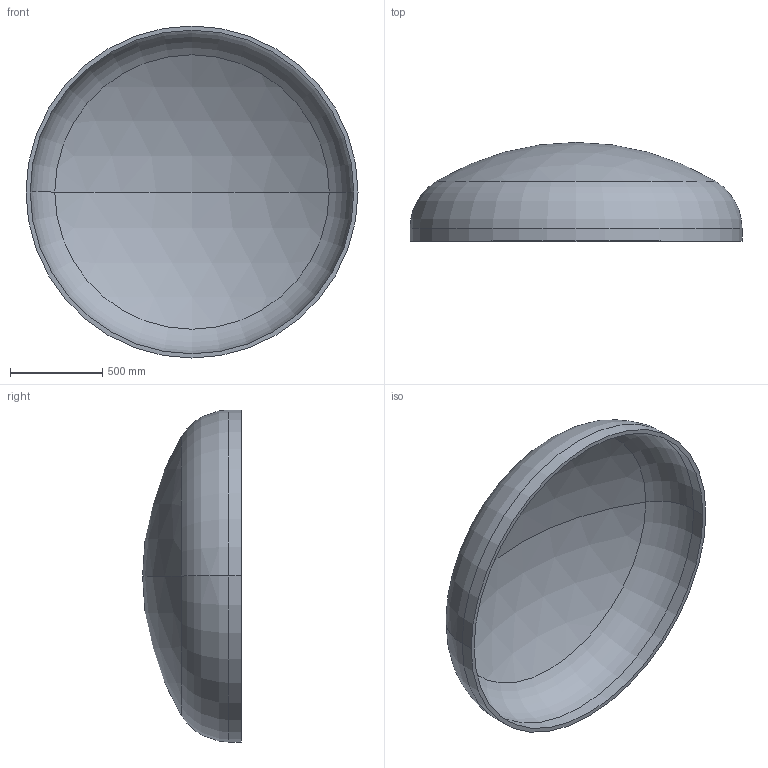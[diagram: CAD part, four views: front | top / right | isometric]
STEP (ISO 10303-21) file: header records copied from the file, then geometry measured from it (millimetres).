
FILE_DESCRIPTION (( 'STEP AP203' ), '1' );
FILE_NAME ('DIN 28013 Korbbogenform_-_Boden DIN 28013 - 1800 x 70 - I - s=23.step', '2016-07-01T12:22:25', ( '' ), ( '' ), 'SwSTEP 2.0', 'SolidWorks 2013', '' );
FILE_SCHEMA (( 'CONFIG_CONTROL_DESIGN' ));
Length unit declared in the file: millimetre
Products named in the file (1): DIN 28013 Korbbogenform_-_Boden DIN 28013 - 1800 x 70 - I - s=23
Bounding box: 1800 x 535.59 x 1800 mm (x, y, z)
Volume: 88566142.3 mm3; surface area: 7830908.9 mm2
Topology: 1 solids, 1 shells, 13 faces, 24 edges, 14 vertices
Faces by surface type: torus 4, cylinder 4, sphere 4, plane 1
Entity records: 407 total; most frequent: DIRECTION 72, CARTESIAN_POINT 52, ORIENTED_EDGE 48, AXIS2_PLACEMENT_3D 34, EDGE_CURVE 24, CIRCLE 20, VERTEX_POINT 14, EDGE_LOOP 14
